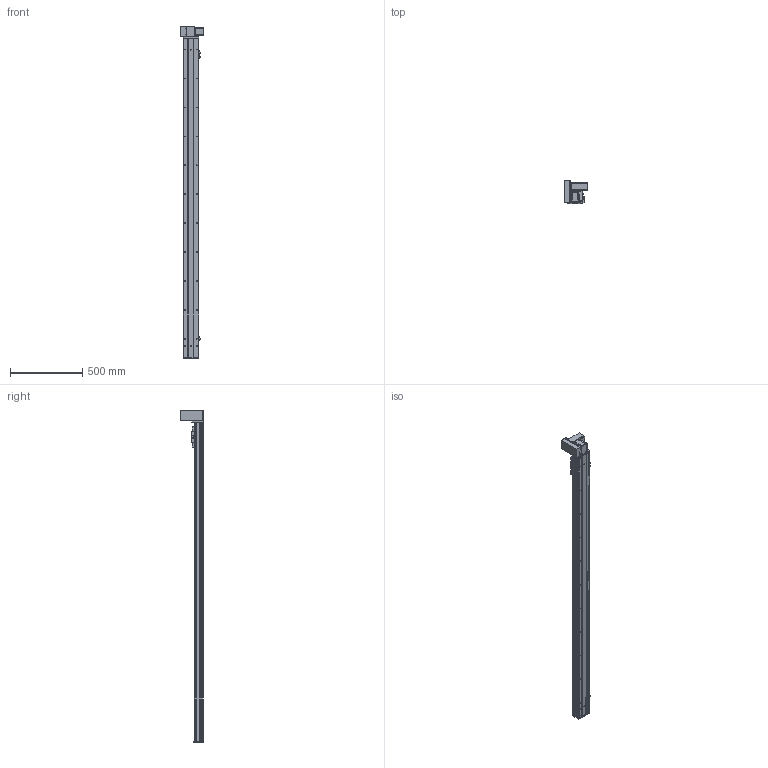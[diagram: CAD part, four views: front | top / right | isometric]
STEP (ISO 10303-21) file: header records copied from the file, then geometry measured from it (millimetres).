
FILE_DESCRIPTION (( 'STEP AP203' ), '1' );
FILE_NAME ('Y10CB-D90-S1950-UL-P400W.STEP', '2020-02-16T08:09:23', ( '微软用户' ), ( '微软中国' ), 'SwSTEP 2.0', 'SolidWorks 2017', '' );
FILE_SCHEMA (( 'CONFIG_CONTROL_DESIGN' ));
Length unit declared in the file: millimetre
Products named in the file (18): Y10B-耜蚾蟀諉啣----; 0B-埴倛裔啣; 00B-俋欶BM--; 10CB-詩湍-; Y10B--々湍喘謫眊--666; Y10CB- 掛极耜裔啣-毀---; 0CB-雄赽釱---; Y10CB-D90-S1950-UL-P400W; Y10C---詩湍揤啣; 0Cb-俋欶---; 10CB9-掛极; Y10B-々湍喘謫眊楊擘啣--; 10CB-耜裔; 0B-萇儂楊擘啣; Y135C-陔俋离換覜結え-; san松下电机400不带刹车----; Y100-135俋离換覜ん--; 0B-源倛裔啣
Assembly tree (21 placements, depth 2):
  Y10CB-D90-S1950-UL-P400W
    0CB-雄赽釱---
    0Cb-俋欶---
    Y10B-々湍喘謫眊楊擘啣--
    0B-萇儂楊擘啣
    san松下电机400不带刹车----
    0B-源倛裔啣
    0B-埴倛裔啣
    10CB-詩湍-
    Y10CB- 掛极耜裔啣-毀---  x2
    Y10C---詩湍揤啣  x2
    10CB9-掛极
    10CB-耜裔
    Y135C-陔俋离換覜結え-
    Y100-135俋离換覜ん--  x3
    Y10B-耜蚾蟀諉啣----
    00B-俋欶BM--
    Y10B--々湍喘謫眊--666
Bounding box: 157 x 155.5 x 2296 mm (x, y, z)
Volume: 4793501.4 mm3; surface area: 2247990.6 mm2
Topology: 21 solids, 21 shells, 1050 faces, 2843 edges, 1850 vertices
Faces by surface type: cylinder 539, plane 487, cone 24
Entity records: 33412 total; most frequent: CARTESIAN_POINT 6209, DIRECTION 5338, ORIENTED_EDGE 5156, EDGE_CURVE 2578, AXIS2_PLACEMENT_3D 1909, VERTEX_POINT 1676, LINE 1520, VECTOR 1520
